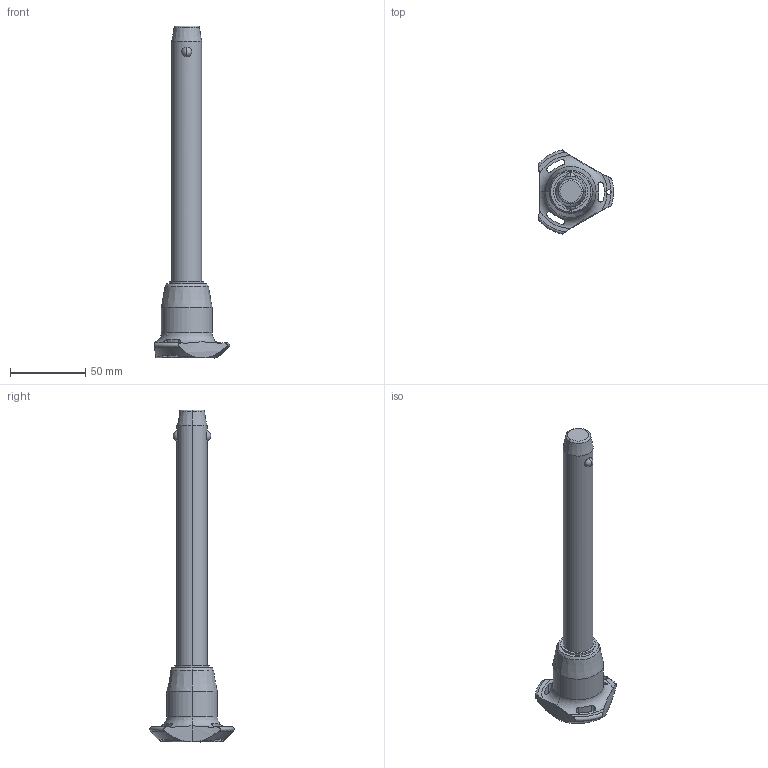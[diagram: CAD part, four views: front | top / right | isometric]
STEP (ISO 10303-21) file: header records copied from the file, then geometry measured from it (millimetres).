
FILE_DESCRIPTION (( 'STEP AP203' ), '1' );
FILE_NAME ('QR1714.M20-150-S.step', '2025-11-12T10:30:32', ( '' ), ( '' ), 'SwSTEP 2.0', 'SolidWorks 2019', '' );
FILE_SCHEMA (( 'CONFIG_CONTROL_DESIGN' ));
Length unit declared in the file: millimetre
Products named in the file (1): QR1714.M20-150-S
Bounding box: 50.04 x 56.02 x 221.2 mm (x, y, z)
Volume: 100900.9 mm3; surface area: 20392 mm2
Topology: 1 solids, 1 shells, 65 faces, 176 edges, 111 vertices
Faces by surface type: cylinder 30, cone 14, torus 11, sphere 6, plane 4
Entity records: 2858 total; most frequent: CARTESIAN_POINT 1179, ORIENTED_EDGE 352, DIRECTION 329, EDGE_CURVE 176, AXIS2_PLACEMENT_3D 147, VERTEX_POINT 111, CIRCLE 81, EDGE_LOOP 71
